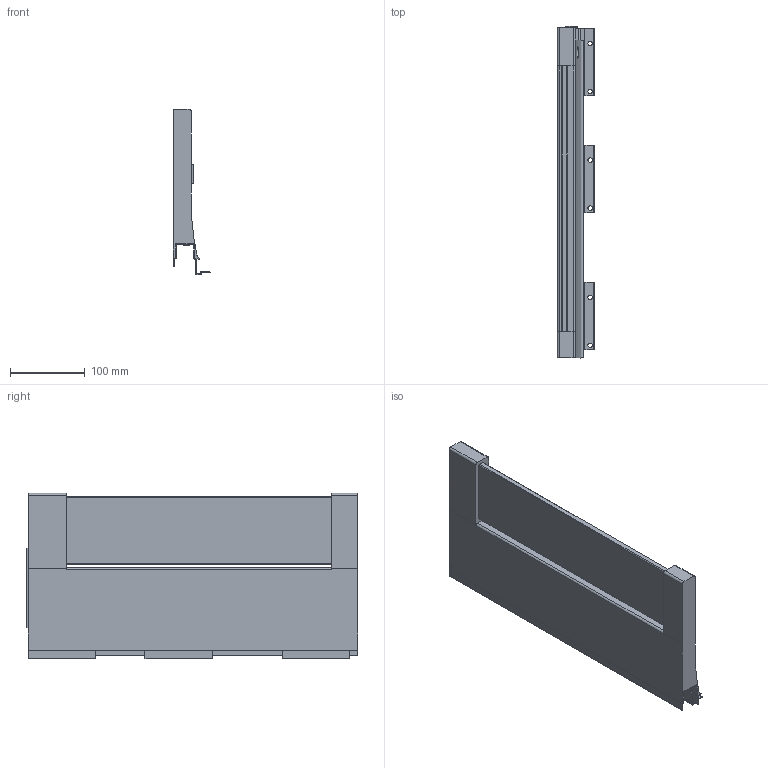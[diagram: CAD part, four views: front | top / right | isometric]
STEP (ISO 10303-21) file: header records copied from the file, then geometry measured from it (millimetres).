
FILE_DESCRIPTION (( 'STEP AP214' ), '1' );
FILE_NAME ('_XP Agantis Dekorseite H127 NL450 LI Top Glashalter.step', '2010-07-08T06:29:30', ( 'grass' ), ( '' ), 'SwSTEP 2.0', 'SolidWorks 2010', '' );
FILE_SCHEMA (( 'AUTOMOTIVE_DESIGN' ));
Length unit declared in the file: millimetre
Products named in the file (1): _XP Agantis Dekorseite H127 NL450 LI  Top Glashalter
Bounding box: 50.11 x 442.6 x 220.7 mm (x, y, z)
Volume: 1416293.6 mm3; surface area: 274265.9 mm2
Topology: 1 solids, 1 shells, 178 faces, 518 edges, 339 vertices
Faces by surface type: plane 145, cylinder 33
Entity records: 5953 total; most frequent: CARTESIAN_POINT 1123, ORIENTED_EDGE 1036, DIRECTION 940, EDGE_CURVE 518, LINE 450, VECTOR 450, VERTEX_POINT 339, AXIS2_PLACEMENT_3D 245
